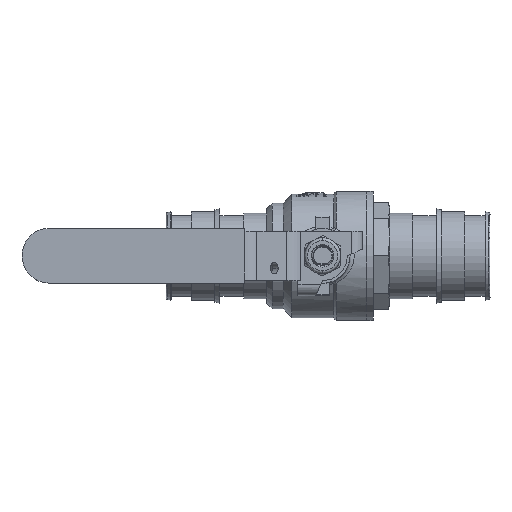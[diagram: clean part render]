
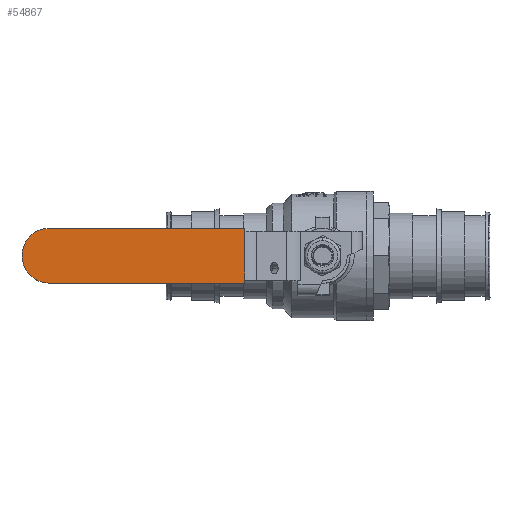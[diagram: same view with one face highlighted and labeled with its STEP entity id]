
A CAD part, top view. The second image highlights one B-rep face of the part: STEP entity #54867.
In plain terms, the highlighted planar face has unit normal (0, 0, 1).
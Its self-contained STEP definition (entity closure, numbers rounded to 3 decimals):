
#52304 = PLANE('',#52305);
#52305 = AXIS2_PLACEMENT_3D('',#52306,#52307,#52308);
#52306 = CARTESIAN_POINT('',(-28.314,10.,
    58.217));
#52307 = DIRECTION('',(-1.,0.,0.));
#52308 = DIRECTION('',(0.,-1.,0.));
#54637 = VERTEX_POINT('',#54638);
#54638 = CARTESIAN_POINT('',(-28.314,-10.,
    58.217));
#54654 = PLANE('',#54655);
#54655 = AXIS2_PLACEMENT_3D('',#54656,#54657,#54658);
#54656 = CARTESIAN_POINT('',(0.,-10.,
    39.217));
#54657 = DIRECTION('',(0.,1.,0.));
#54658 = DIRECTION('',(-1.,0.,0.));
#54695 = VERTEX_POINT('',#54696);
#54696 = CARTESIAN_POINT('',(-28.314,10.,
    58.217));
#54710 = PLANE('',#54711);
#54711 = AXIS2_PLACEMENT_3D('',#54712,#54713,#54714);
#54712 = CARTESIAN_POINT('',(0.,10.,
    39.217));
#54713 = DIRECTION('',(0.,1.,0.));
#54714 = DIRECTION('',(-1.,0.,0.));
#54722 = EDGE_CURVE('',#54695,#54637,#54723,.T.);
#54723 = SURFACE_CURVE('',#54724,(#54728,#54735),.PCURVE_S1.);
#54724 = LINE('',#54725,#54726);
#54725 = CARTESIAN_POINT('',(-28.314,10.,
    58.217));
#54726 = VECTOR('',#54727,1.);
#54727 = DIRECTION('',(0.,-1.,0.));
#54728 = PCURVE('',#52304,#54729);
#54729 = DEFINITIONAL_REPRESENTATION('',(#54730),#54734);
#54730 = LINE('',#54731,#54732);
#54731 = CARTESIAN_POINT('',(-0.,0.));
#54732 = VECTOR('',#54733,1.);
#54733 = DIRECTION('',(1.,0.));
#54734 = ( GEOMETRIC_REPRESENTATION_CONTEXT(2) 
PARAMETRIC_REPRESENTATION_CONTEXT() REPRESENTATION_CONTEXT('2D SPACE',''
  ) );
#54735 = PCURVE('',#54736,#54741);
#54736 = PLANE('',#54737);
#54737 = AXIS2_PLACEMENT_3D('',#54738,#54739,#54740);
#54738 = CARTESIAN_POINT('',(-28.314,10.,
    58.217));
#54739 = DIRECTION('',(0.,0.,-1.));
#54740 = DIRECTION('',(0.,-1.,0.));
#54741 = DEFINITIONAL_REPRESENTATION('',(#54742),#54746);
#54742 = LINE('',#54743,#54744);
#54743 = CARTESIAN_POINT('',(-0.,0.));
#54744 = VECTOR('',#54745,1.);
#54745 = DIRECTION('',(1.,0.));
#54746 = ( GEOMETRIC_REPRESENTATION_CONTEXT(2) 
PARAMETRIC_REPRESENTATION_CONTEXT() REPRESENTATION_CONTEXT('2D SPACE',''
  ) );
#54801 = CYLINDRICAL_SURFACE('',#54802,10.);
#54802 = AXIS2_PLACEMENT_3D('',#54803,#54804,#54805);
#54803 = CARTESIAN_POINT('',(-99.5,0.,58.217));
#54804 = DIRECTION('',(0.,0.,1.));
#54805 = DIRECTION('',(0.,1.,0.));
#54834 = CYLINDRICAL_SURFACE('',#54835,10.);
#54835 = AXIS2_PLACEMENT_3D('',#54836,#54837,#54838);
#54836 = CARTESIAN_POINT('',(-99.5,0.,39.217));
#54837 = DIRECTION('',(0.,0.,-1.));
#54838 = DIRECTION('',(0.,-1.,0.));
#54867 = ADVANCED_FACE('',(#54868),#54736,.F.);
#54868 = FACE_BOUND('',#54869,.T.);
#54869 = EDGE_LOOP('',(#54870,#54900,#54928,#54949,#54950));
#54870 = ORIENTED_EDGE('',*,*,#54871,.T.);
#54871 = EDGE_CURVE('',#54872,#54874,#54876,.T.);
#54872 = VERTEX_POINT('',#54873);
#54873 = CARTESIAN_POINT('',(-99.5,10.,58.217));
#54874 = VERTEX_POINT('',#54875);
#54875 = CARTESIAN_POINT('',(-109.5,0.,58.217)
  );
#54876 = SURFACE_CURVE('',#54877,(#54882,#54893),.PCURVE_S1.);
#54877 = CIRCLE('',#54878,10.);
#54878 = AXIS2_PLACEMENT_3D('',#54879,#54880,#54881);
#54879 = CARTESIAN_POINT('',(-99.5,0.,58.217));
#54880 = DIRECTION('',(0.,0.,1.));
#54881 = DIRECTION('',(0.,-1.,0.));
#54882 = PCURVE('',#54736,#54883);
#54883 = DEFINITIONAL_REPRESENTATION('',(#54884),#54892);
#54884 = ( BOUNDED_CURVE() B_SPLINE_CURVE(2,(#54885,#54886,#54887,#54888
    ,#54889,#54890,#54891),.UNSPECIFIED.,.T.,.F.) 
B_SPLINE_CURVE_WITH_KNOTS((1,2,2,2,2,1),(-2.094,0.,
    2.094,4.189,6.283,8.378),
.UNSPECIFIED.) CURVE() GEOMETRIC_REPRESENTATION_ITEM() 
RATIONAL_B_SPLINE_CURVE((1.,0.5,1.,0.5,1.,0.5,1.)) REPRESENTATION_ITEM(
  '') );
#54885 = CARTESIAN_POINT('',(20.,71.186));
#54886 = CARTESIAN_POINT('',(20.,53.866));
#54887 = CARTESIAN_POINT('',(5.,62.526));
#54888 = CARTESIAN_POINT('',(-10.,71.186));
#54889 = CARTESIAN_POINT('',(5.,79.847));
#54890 = CARTESIAN_POINT('',(20.,88.507));
#54891 = CARTESIAN_POINT('',(20.,71.186));
#54892 = ( GEOMETRIC_REPRESENTATION_CONTEXT(2) 
PARAMETRIC_REPRESENTATION_CONTEXT() REPRESENTATION_CONTEXT('2D SPACE',''
  ) );
#54893 = PCURVE('',#54834,#54894);
#54894 = DEFINITIONAL_REPRESENTATION('',(#54895),#54899);
#54895 = LINE('',#54896,#54897);
#54896 = CARTESIAN_POINT('',(6.283,-19.));
#54897 = VECTOR('',#54898,1.);
#54898 = DIRECTION('',(-1.,0.));
#54899 = ( GEOMETRIC_REPRESENTATION_CONTEXT(2) 
PARAMETRIC_REPRESENTATION_CONTEXT() REPRESENTATION_CONTEXT('2D SPACE',''
  ) );
#54900 = ORIENTED_EDGE('',*,*,#54901,.T.);
#54901 = EDGE_CURVE('',#54874,#54902,#54904,.T.);
#54902 = VERTEX_POINT('',#54903);
#54903 = CARTESIAN_POINT('',(-99.5,-10.,58.217));
#54904 = SURFACE_CURVE('',#54905,(#54910,#54921),.PCURVE_S1.);
#54905 = CIRCLE('',#54906,10.);
#54906 = AXIS2_PLACEMENT_3D('',#54907,#54908,#54909);
#54907 = CARTESIAN_POINT('',(-99.5,0.,58.217));
#54908 = DIRECTION('',(0.,0.,1.));
#54909 = DIRECTION('',(0.,-1.,0.));
#54910 = PCURVE('',#54736,#54911);
#54911 = DEFINITIONAL_REPRESENTATION('',(#54912),#54920);
#54912 = ( BOUNDED_CURVE() B_SPLINE_CURVE(2,(#54913,#54914,#54915,#54916
    ,#54917,#54918,#54919),.UNSPECIFIED.,.T.,.F.) 
B_SPLINE_CURVE_WITH_KNOTS((1,2,2,2,2,1),(-2.094,0.,
    2.094,4.189,6.283,8.378),
.UNSPECIFIED.) CURVE() GEOMETRIC_REPRESENTATION_ITEM() 
RATIONAL_B_SPLINE_CURVE((1.,0.5,1.,0.5,1.,0.5,1.)) REPRESENTATION_ITEM(
  '') );
#54913 = CARTESIAN_POINT('',(20.,71.186));
#54914 = CARTESIAN_POINT('',(20.,53.866));
#54915 = CARTESIAN_POINT('',(5.,62.526));
#54916 = CARTESIAN_POINT('',(-10.,71.186));
#54917 = CARTESIAN_POINT('',(5.,79.847));
#54918 = CARTESIAN_POINT('',(20.,88.507));
#54919 = CARTESIAN_POINT('',(20.,71.186));
#54920 = ( GEOMETRIC_REPRESENTATION_CONTEXT(2) 
PARAMETRIC_REPRESENTATION_CONTEXT() REPRESENTATION_CONTEXT('2D SPACE',''
  ) );
#54921 = PCURVE('',#54801,#54922);
#54922 = DEFINITIONAL_REPRESENTATION('',(#54923),#54927);
#54923 = LINE('',#54924,#54925);
#54924 = CARTESIAN_POINT('',(-3.142,0.));
#54925 = VECTOR('',#54926,1.);
#54926 = DIRECTION('',(1.,0.));
#54927 = ( GEOMETRIC_REPRESENTATION_CONTEXT(2) 
PARAMETRIC_REPRESENTATION_CONTEXT() REPRESENTATION_CONTEXT('2D SPACE',''
  ) );
#54928 = ORIENTED_EDGE('',*,*,#54929,.T.);
#54929 = EDGE_CURVE('',#54902,#54637,#54930,.T.);
#54930 = SURFACE_CURVE('',#54931,(#54935,#54942),.PCURVE_S1.);
#54931 = LINE('',#54932,#54933);
#54932 = CARTESIAN_POINT('',(-28.314,-10.,
    58.217));
#54933 = VECTOR('',#54934,1.);
#54934 = DIRECTION('',(1.,0.,0.));
#54935 = PCURVE('',#54736,#54936);
#54936 = DEFINITIONAL_REPRESENTATION('',(#54937),#54941);
#54937 = LINE('',#54938,#54939);
#54938 = CARTESIAN_POINT('',(20.,0.));
#54939 = VECTOR('',#54940,1.);
#54940 = DIRECTION('',(0.,-1.));
#54941 = ( GEOMETRIC_REPRESENTATION_CONTEXT(2) 
PARAMETRIC_REPRESENTATION_CONTEXT() REPRESENTATION_CONTEXT('2D SPACE',''
  ) );
#54942 = PCURVE('',#54654,#54943);
#54943 = DEFINITIONAL_REPRESENTATION('',(#54944),#54948);
#54944 = LINE('',#54945,#54946);
#54945 = CARTESIAN_POINT('',(28.314,19.));
#54946 = VECTOR('',#54947,1.);
#54947 = DIRECTION('',(-1.,0.));
#54948 = ( GEOMETRIC_REPRESENTATION_CONTEXT(2) 
PARAMETRIC_REPRESENTATION_CONTEXT() REPRESENTATION_CONTEXT('2D SPACE',''
  ) );
#54949 = ORIENTED_EDGE('',*,*,#54722,.F.);
#54950 = ORIENTED_EDGE('',*,*,#54951,.F.);
#54951 = EDGE_CURVE('',#54872,#54695,#54952,.T.);
#54952 = SURFACE_CURVE('',#54953,(#54957,#54964),.PCURVE_S1.);
#54953 = LINE('',#54954,#54955);
#54954 = CARTESIAN_POINT('',(-28.314,10.,
    58.217));
#54955 = VECTOR('',#54956,1.);
#54956 = DIRECTION('',(1.,0.,0.));
#54957 = PCURVE('',#54736,#54958);
#54958 = DEFINITIONAL_REPRESENTATION('',(#54959),#54963);
#54959 = LINE('',#54960,#54961);
#54960 = CARTESIAN_POINT('',(-0.,0.));
#54961 = VECTOR('',#54962,1.);
#54962 = DIRECTION('',(0.,-1.));
#54963 = ( GEOMETRIC_REPRESENTATION_CONTEXT(2) 
PARAMETRIC_REPRESENTATION_CONTEXT() REPRESENTATION_CONTEXT('2D SPACE',''
  ) );
#54964 = PCURVE('',#54710,#54965);
#54965 = DEFINITIONAL_REPRESENTATION('',(#54966),#54970);
#54966 = LINE('',#54967,#54968);
#54967 = CARTESIAN_POINT('',(28.314,19.));
#54968 = VECTOR('',#54969,1.);
#54969 = DIRECTION('',(-1.,0.));
#54970 = ( GEOMETRIC_REPRESENTATION_CONTEXT(2) 
PARAMETRIC_REPRESENTATION_CONTEXT() REPRESENTATION_CONTEXT('2D SPACE',''
  ) );
